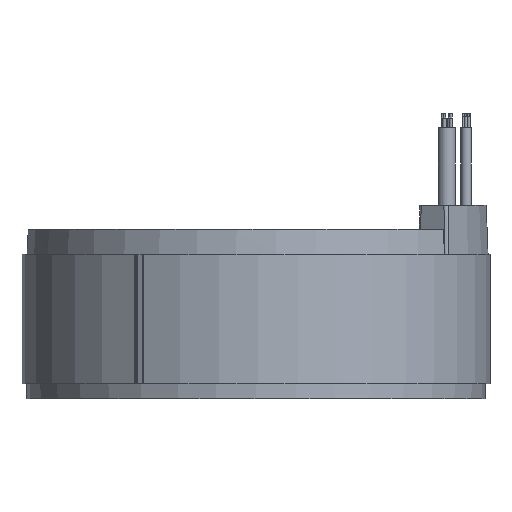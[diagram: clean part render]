
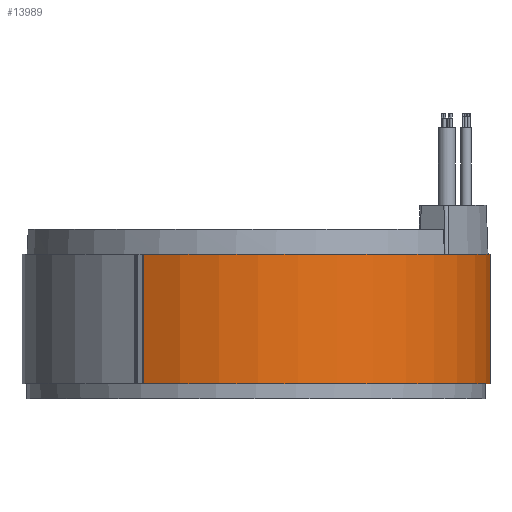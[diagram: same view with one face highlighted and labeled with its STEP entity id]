
A CAD part, left-side view. The second image highlights one B-rep face of the part: STEP entity #13989.
In plain terms, the highlighted cylindrical face has radius 145 mm (diameter 290 mm), a partial arc.
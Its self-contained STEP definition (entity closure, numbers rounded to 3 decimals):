
#1535=LINE('',#26941,#2530);
#1554=LINE('',#26977,#2549);
#2530=VECTOR('',#21879,1000.);
#2549=VECTOR('',#21932,1000.);
#5806=ORIENTED_EDGE('',*,*,#8095,.F.);
#5807=ORIENTED_EDGE('',*,*,#8167,.T.);
#5808=ORIENTED_EDGE('',*,*,#8120,.T.);
#5809=ORIENTED_EDGE('',*,*,#8148,.T.);
#8095=EDGE_CURVE('',#9514,#9515,#10639,.T.);
#8120=EDGE_CURVE('',#9539,#9540,#10655,.T.);
#8148=EDGE_CURVE('',#9540,#9515,#1535,.F.);
#8167=EDGE_CURVE('',#9514,#9539,#1554,.T.);
#9514=VERTEX_POINT('',#26836);
#9515=VERTEX_POINT('',#26837);
#9539=VERTEX_POINT('',#26887);
#9540=VERTEX_POINT('',#26888);
#10639=CIRCLE('',#17101,145.);
#10655=CIRCLE('',#17118,145.);
#11635=EDGE_LOOP('',(#5806,#5807,#5808,#5809));
#12628=FACE_BOUND('',#11635,.T.);
#13185=CYLINDRICAL_SURFACE('',#17156,145.);
#13989=ADVANCED_FACE('',(#12628),#13185,.T.);
#17101=AXIS2_PLACEMENT_3D('',#26835,#21787,#21788);
#17118=AXIS2_PLACEMENT_3D('',#26886,#21830,#21831);
#17156=AXIS2_PLACEMENT_3D('',#26981,#21939,#21940);
#21787=DIRECTION('',(0.,0.,-1.));
#21788=DIRECTION('',(-1.,0.,0.));
#21830=DIRECTION('',(0.,0.,-1.));
#21831=DIRECTION('',(-1.,0.,0.));
#21879=DIRECTION('',(0.,0.,1.));
#21932=DIRECTION('',(0.,0.,1.));
#21939=DIRECTION('',(0.,0.,1.));
#21940=DIRECTION('',(1.,0.,0.));
#26835=CARTESIAN_POINT('',(0.,0.,-80.));
#26836=CARTESIAN_POINT('',(-3.035,-144.968,-80.));
#26837=CARTESIAN_POINT('',(-127.064,69.855,-80.));
#26886=CARTESIAN_POINT('',(0.,0.,0.));
#26887=CARTESIAN_POINT('',(-3.035,-144.968,0.));
#26888=CARTESIAN_POINT('',(-127.064,69.855,0.));
#26941=CARTESIAN_POINT('',(-127.064,69.855,-80.));
#26977=CARTESIAN_POINT('',(-3.035,-144.968,-80.));
#26981=CARTESIAN_POINT('',(0.,0.,-80.));
